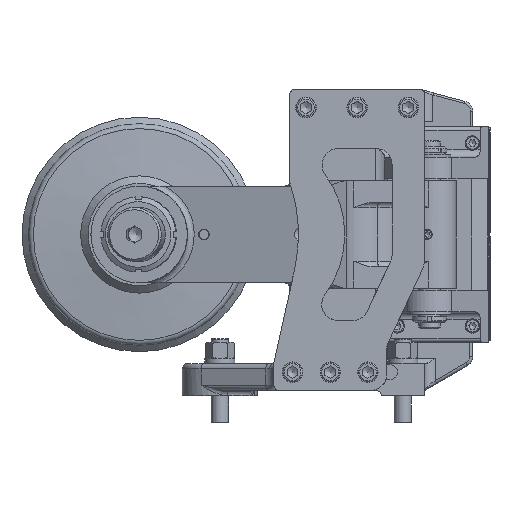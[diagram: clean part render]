
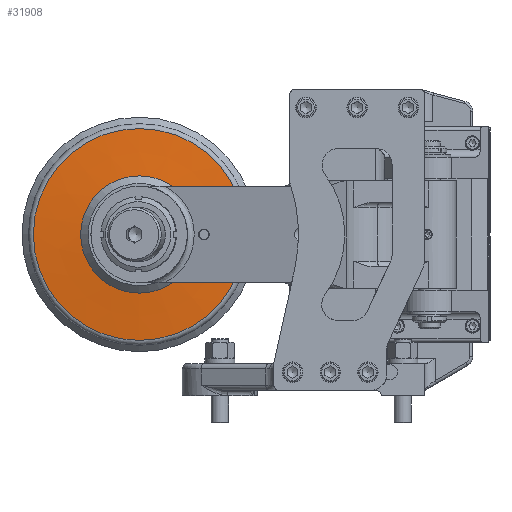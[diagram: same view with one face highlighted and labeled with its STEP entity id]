
A CAD part, left-side view. The second image highlights one B-rep face of the part: STEP entity #31908.
In plain terms, the highlighted conical face has half-angle 85 degrees and reference radius 76.468 mm.
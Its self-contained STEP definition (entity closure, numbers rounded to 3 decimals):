
#2029=CONICAL_SURFACE('',#34006,76.468,1.484);
#2380=FACE_OUTER_BOUND('',#4189,.T.);
#4189=EDGE_LOOP('',(#21144,#21145,#21146,#21147,#21148,#21149,#21150));
#6143=LINE('',#48142,#8331);
#8331=VECTOR('',#38412,76.468);
#10640=CIRCLE('',#34004,54.5);
#10641=CIRCLE('',#34005,54.5);
#10642=CIRCLE('',#34007,98.436);
#10643=CIRCLE('',#34008,98.436);
#10644=CIRCLE('',#34009,98.436);
#12617=VERTEX_POINT('',#48131);
#12618=VERTEX_POINT('',#48132);
#12619=VERTEX_POINT('',#48137);
#12620=VERTEX_POINT('',#48138);
#12621=VERTEX_POINT('',#48140);
#15883=EDGE_CURVE('',#12617,#12618,#10640,.T.);
#15884=EDGE_CURVE('',#12618,#12617,#10641,.T.);
#15886=EDGE_CURVE('',#12619,#12620,#10642,.T.);
#15887=EDGE_CURVE('',#12621,#12619,#10643,.T.);
#15888=EDGE_CURVE('',#12621,#12618,#6143,.T.);
#15889=EDGE_CURVE('',#12620,#12621,#10644,.T.);
#21144=ORIENTED_EDGE('',*,*,#15886,.F.);
#21145=ORIENTED_EDGE('',*,*,#15887,.F.);
#21146=ORIENTED_EDGE('',*,*,#15888,.T.);
#21147=ORIENTED_EDGE('',*,*,#15884,.T.);
#21148=ORIENTED_EDGE('',*,*,#15883,.T.);
#21149=ORIENTED_EDGE('',*,*,#15888,.F.);
#21150=ORIENTED_EDGE('',*,*,#15889,.F.);
#31908=ADVANCED_FACE('',(#2380),#2029,.T.);
#34004=AXIS2_PLACEMENT_3D('',#48133,#38401,#38402);
#34005=AXIS2_PLACEMENT_3D('',#48134,#38403,#38404);
#34006=AXIS2_PLACEMENT_3D('',#48136,#38406,#38407);
#34007=AXIS2_PLACEMENT_3D('',#48139,#38408,#38409);
#34008=AXIS2_PLACEMENT_3D('',#48141,#38410,#38411);
#34009=AXIS2_PLACEMENT_3D('',#48143,#38413,#38414);
#38401=DIRECTION('center_axis',(1.,0.,0.));
#38402=DIRECTION('ref_axis',(0.,0.,
1.));
#38403=DIRECTION('center_axis',(1.,0.,0.));
#38404=DIRECTION('ref_axis',(0.,0.,
1.));
#38406=DIRECTION('center_axis',(1.,0.,0.));
#38407=DIRECTION('ref_axis',(0.,0.,
1.));
#38408=DIRECTION('center_axis',(1.,0.,0.));
#38409=DIRECTION('ref_axis',(0.,0.,
1.));
#38410=DIRECTION('center_axis',(1.,0.,0.));
#38411=DIRECTION('ref_axis',(0.,0.,
1.));
#38412=DIRECTION('',(-0.087,0.,0.996));
#38413=DIRECTION('center_axis',(1.,0.,0.));
#38414=DIRECTION('ref_axis',(0.,0.,
1.));
#48131=CARTESIAN_POINT('',(104.25,310.,204.5));
#48132=CARTESIAN_POINT('',(104.25,310.,95.5));
#48133=CARTESIAN_POINT('Origin',(104.25,310.,150.));
#48134=CARTESIAN_POINT('Origin',(104.25,310.,150.));
#48136=CARTESIAN_POINT('Origin',(106.172,310.,150.));
#48137=CARTESIAN_POINT('',(108.094,310.,248.436));
#48138=CARTESIAN_POINT('',(108.094,211.564,150.));
#48139=CARTESIAN_POINT('Origin',(108.094,310.,150.));
#48140=CARTESIAN_POINT('',(108.094,310.,51.564));
#48141=CARTESIAN_POINT('Origin',(108.094,310.,150.));
#48142=CARTESIAN_POINT('',(106.172,310.,73.532));
#48143=CARTESIAN_POINT('Origin',(108.094,310.,150.));
